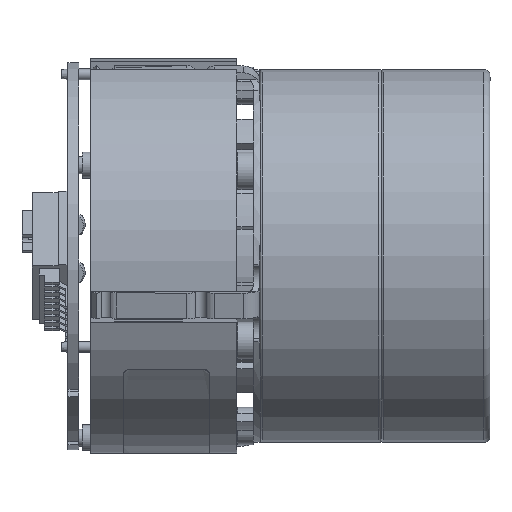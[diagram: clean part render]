
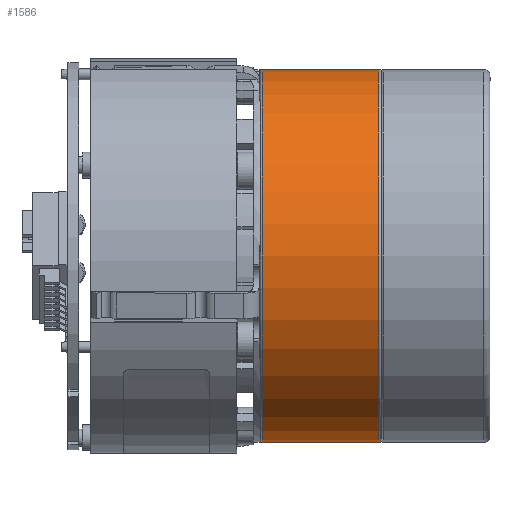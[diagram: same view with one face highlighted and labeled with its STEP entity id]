
A CAD part, front view. The second image highlights one B-rep face of the part: STEP entity #1586.
In plain terms, the highlighted cylindrical face has radius 27.4 mm (diameter 54.8 mm), a full revolution.
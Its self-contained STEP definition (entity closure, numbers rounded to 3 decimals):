
#838 = VERTEX_POINT ( 'NONE', #15423 ) ;
#880 = CIRCLE ( 'NONE', #7656, 27.4 ) ;
#1586 = ADVANCED_FACE ( 'NONE', ( #27098, #28091 ), #26128, .T. ) ;
#1782 = AXIS2_PLACEMENT_3D ( 'NONE', #8871, #27501, #21182 ) ;
#7656 = AXIS2_PLACEMENT_3D ( 'NONE', #9278, #31070, #12327 ) ;
#8871 = CARTESIAN_POINT ( 'NONE',  ( 0., 0., 0. ) ) ;
#8963 = DIRECTION ( 'NONE',  ( 1., 0., 0. ) ) ;
#9278 = CARTESIAN_POINT ( 'NONE',  ( 22.175, 0., 0. ) ) ;
#11418 = ORIENTED_EDGE ( 'NONE', *, *, #21589, .T. ) ;
#12327 = DIRECTION ( 'NONE',  ( 0., 0., -1. ) ) ;
#15423 = CARTESIAN_POINT ( 'NONE',  ( 5.05, 0., 27.4 ) ) ;
#16164 = EDGE_LOOP ( 'NONE', ( #11418 ) ) ;
#18879 = ORIENTED_EDGE ( 'NONE', *, *, #24510, .T. ) ;
#19230 = EDGE_LOOP ( 'NONE', ( #18879 ) ) ;
#21182 = DIRECTION ( 'NONE',  ( 0., 0., -1. ) ) ;
#21589 = EDGE_CURVE ( 'NONE', #838, #838, #31266, .T. ) ;
#24510 = EDGE_CURVE ( 'NONE', #39304, #39304, #880, .T. ) ;
#26128 = CYLINDRICAL_SURFACE ( 'NONE', #1782, 27.4 ) ;
#27098 = FACE_OUTER_BOUND ( 'NONE', #16164, .T. ) ;
#27501 = DIRECTION ( 'NONE',  ( 1., 0., 0. ) ) ;
#27598 = CARTESIAN_POINT ( 'NONE',  ( 5.05, 0., 0. ) ) ;
#28091 = FACE_OUTER_BOUND ( 'NONE', #19230, .T. ) ;
#30741 = DIRECTION ( 'NONE',  ( 0., 0., 1. ) ) ;
#31070 = DIRECTION ( 'NONE',  ( -1., 0., 0. ) ) ;
#31175 = CARTESIAN_POINT ( 'NONE',  ( 22.175, 0., -27.4 ) ) ;
#31266 = CIRCLE ( 'NONE', #35945, 27.4 ) ;
#35945 = AXIS2_PLACEMENT_3D ( 'NONE', #27598, #8963, #30741 ) ;
#39304 = VERTEX_POINT ( 'NONE', #31175 ) ;
